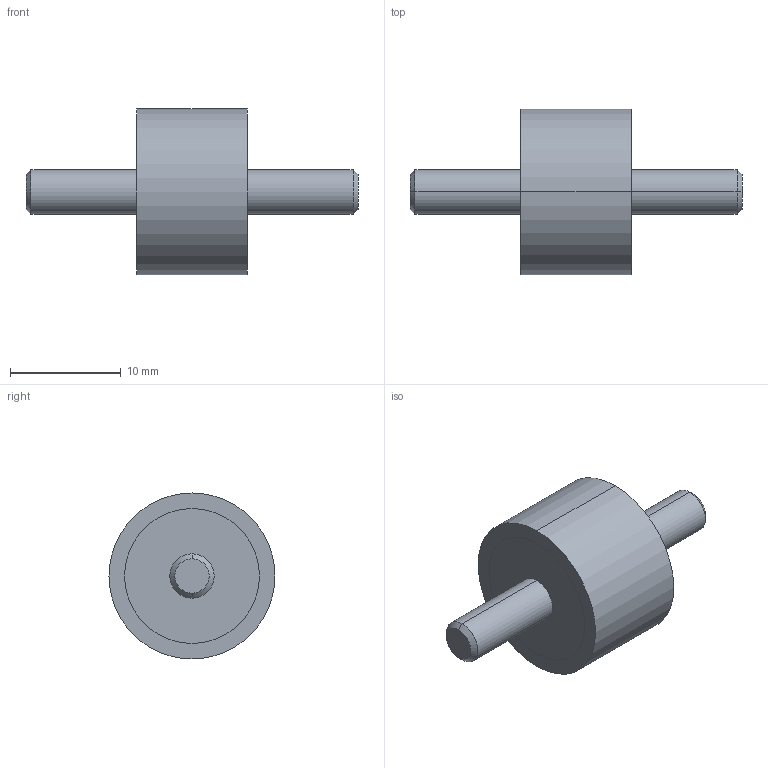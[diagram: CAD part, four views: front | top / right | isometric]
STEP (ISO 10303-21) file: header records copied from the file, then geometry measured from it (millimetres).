
FILE_DESCRIPTION (( 'STEP AP214' ), '1' );
FILE_NAME ('351-15-10-M4-SS-40.step', '2025-07-23T10:00:35', ( '' ), ( '' ), 'SwSTEP 2.0', 'SolidWorks 2022', '' );
FILE_SCHEMA (( 'AUTOMOTIVE_DESIGN' ));
Length unit declared in the file: millimetre
Products named in the file (1): 351-15-10-M4-SS-40
Bounding box: 30 x 15 x 15 mm (x, y, z)
Volume: 2014 mm3; surface area: 1069.9 mm2
Topology: 1 solids, 1 shells, 20 faces, 38 edges, 24 vertices
Faces by surface type: cylinder 10, plane 6, cone 4
Entity records: 636 total; most frequent: DIRECTION 104, CARTESIAN_POINT 83, ORIENTED_EDGE 76, AXIS2_PLACEMENT_3D 45, EDGE_CURVE 38, VERTEX_POINT 24, CIRCLE 24, EDGE_LOOP 24
